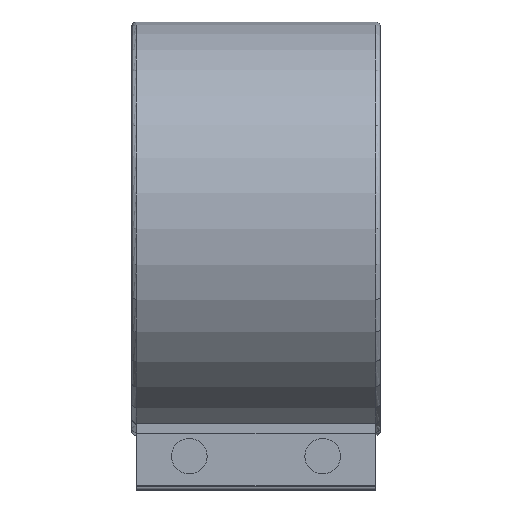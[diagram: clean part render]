
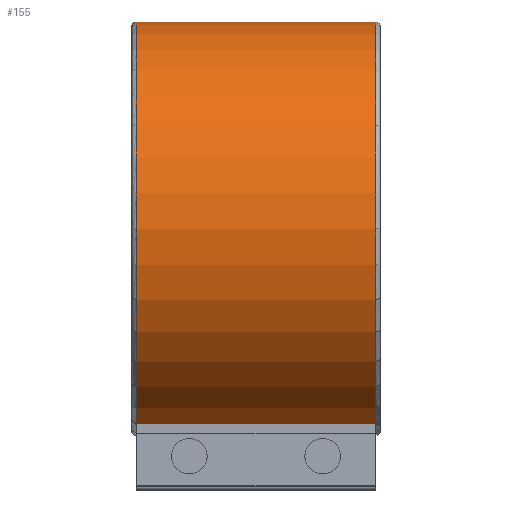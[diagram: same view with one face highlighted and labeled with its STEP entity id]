
A CAD part, top view. The second image highlights one B-rep face of the part: STEP entity #155.
In plain terms, the highlighted cylindrical face has radius 46.5 mm (diameter 93 mm), a partial arc.
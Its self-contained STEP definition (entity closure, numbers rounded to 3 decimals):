
#155 = ADVANCED_FACE( '', ( #423 ), #424, .T. );
#423 = FACE_OUTER_BOUND( '', #836, .T. );
#424 = CYLINDRICAL_SURFACE( '', #837, 46.5 );
#836 = EDGE_LOOP( '', ( #1281, #1282, #1283, #1284 ) );
#837 = AXIS2_PLACEMENT_3D( '', #1285, #1286, #1287 );
#1281 = ORIENTED_EDGE( '', *, *, #2272, .T. );
#1282 = ORIENTED_EDGE( '', *, *, #2264, .T. );
#1283 = ORIENTED_EDGE( '', *, *, #2273, .F. );
#1284 = ORIENTED_EDGE( '', *, *, #2274, .T. );
#1285 = CARTESIAN_POINT( '', ( 28., 0., 0. ) );
#1286 = DIRECTION( '', ( -1., 0., 0. ) );
#1287 = DIRECTION( '', ( 0., 0., -1. ) );
#2264 = EDGE_CURVE( '', #2679, #2680, #2681, .T. );
#2272 = EDGE_CURVE( '', #2693, #2679, #2694, .T. );
#2273 = EDGE_CURVE( '', #2695, #2680, #2696, .T. );
#2274 = EDGE_CURVE( '', #2695, #2693, #2697, .F. );
#2679 = VERTEX_POINT( '', #3288 );
#2680 = VERTEX_POINT( '', #3289 );
#2681 = LINE( '', #3290, #3291 );
#2693 = VERTEX_POINT( '', #3309 );
#2694 = CIRCLE( '', #3310, 46.5 );
#2695 = VERTEX_POINT( '', #3311 );
#2696 = CIRCLE( '', #3312, 46.5 );
#2697 = LINE( '', #3313, #3314 );
#3288 = CARTESIAN_POINT( '', ( -26.884, -43.751, 15.75 ) );
#3289 = CARTESIAN_POINT( '', ( 26.884, -43.751, 15.75 ) );
#3290 = CARTESIAN_POINT( '', ( 28., -43.751, 15.75 ) );
#3291 = VECTOR( '', #4064, 1000. );
#3309 = CARTESIAN_POINT( '', ( -26.884, -43.751, -15.75 ) );
#3310 = AXIS2_PLACEMENT_3D( '', #4071, #4072, #4073 );
#3311 = CARTESIAN_POINT( '', ( 26.884, -43.751, -15.75 ) );
#3312 = AXIS2_PLACEMENT_3D( '', #4074, #4075, #4076 );
#3313 = CARTESIAN_POINT( '', ( 28., -43.751, -15.75 ) );
#3314 = VECTOR( '', #4077, 1000. );
#4064 = DIRECTION( '', ( 1., 0., 0. ) );
#4071 = CARTESIAN_POINT( '', ( -26.884, 0., 0. ) );
#4072 = DIRECTION( '', ( 1., 0., 0. ) );
#4073 = DIRECTION( '', ( 0., 0., -1. ) );
#4074 = CARTESIAN_POINT( '', ( 26.884, 0., 0. ) );
#4075 = DIRECTION( '', ( 1., 0., 0. ) );
#4076 = DIRECTION( '', ( 0., 0., -1. ) );
#4077 = DIRECTION( '', ( 1., 0., 0. ) );
